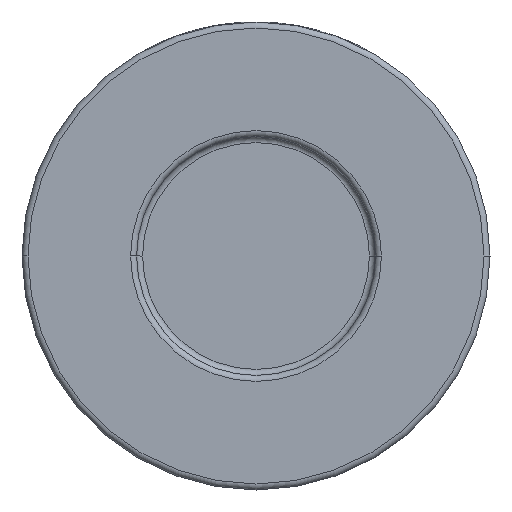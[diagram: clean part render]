
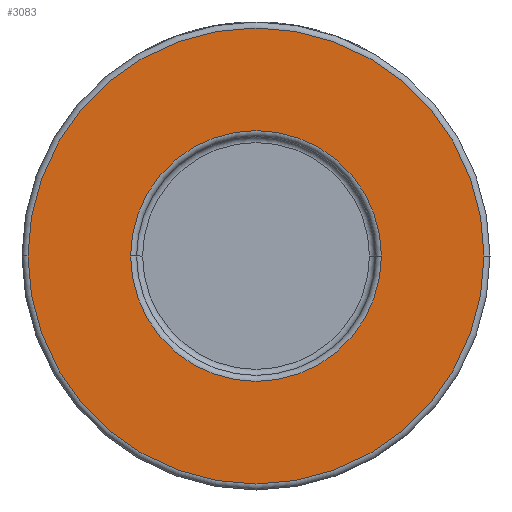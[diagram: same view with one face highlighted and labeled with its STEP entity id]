
A CAD part, front view. The second image highlights one B-rep face of the part: STEP entity #3083.
In plain terms, the highlighted planar face has unit normal (0, -1, 0).
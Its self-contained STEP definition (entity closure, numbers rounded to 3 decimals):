
#149 = CARTESIAN_POINT ( 'NONE',  ( 0., -26., 0. ) ) ;
#270 = DIRECTION ( 'NONE',  ( 0., -1., 0. ) ) ;
#294 = CARTESIAN_POINT ( 'NONE',  ( 39., -26., 0. ) ) ;
#370 = ORIENTED_EDGE ( 'NONE', *, *, #4394, .T. ) ;
#423 = DIRECTION ( 'NONE',  ( 0., -1., 0. ) ) ;
#425 = EDGE_LOOP ( 'NONE', ( #875, #2602 ) ) ;
#471 = DIRECTION ( 'NONE',  ( 1., 0., 0. ) ) ;
#713 = EDGE_CURVE ( 'NONE', #2029, #928, #2468, .T. ) ;
#725 = DIRECTION ( 'NONE',  ( 1., 0., 0. ) ) ;
#788 = CIRCLE ( 'NONE', #3146, 38. ) ;
#839 = DIRECTION ( 'NONE',  ( 0., 1., 0. ) ) ;
#875 = ORIENTED_EDGE ( 'NONE', *, *, #713, .T. ) ;
#928 = VERTEX_POINT ( 'NONE', #2637 ) ;
#944 = DIRECTION ( 'NONE',  ( 1., 0., 0. ) ) ;
#1090 = AXIS2_PLACEMENT_3D ( 'NONE', #1128, #839, #2615 ) ;
#1108 = DIRECTION ( 'NONE',  ( 0., 1., 0. ) ) ;
#1128 = CARTESIAN_POINT ( 'NONE',  ( 0., -26., 0. ) ) ;
#1516 = DIRECTION ( 'NONE',  ( 0., -1., 0. ) ) ;
#1530 = VERTEX_POINT ( 'NONE', #4451 ) ;
#1613 = CIRCLE ( 'NONE', #2190, 20.9 ) ;
#1959 = FACE_BOUND ( 'NONE', #3661, .T. ) ;
#2029 = VERTEX_POINT ( 'NONE', #2096 ) ;
#2071 = ORIENTED_EDGE ( 'NONE', *, *, #3267, .T. ) ;
#2096 = CARTESIAN_POINT ( 'NONE',  ( 38., -26., 0. ) ) ;
#2190 = AXIS2_PLACEMENT_3D ( 'NONE', #149, #1108, #3607 ) ;
#2391 = CARTESIAN_POINT ( 'NONE',  ( 20.9, -26., 0. ) ) ;
#2468 = CIRCLE ( 'NONE', #4158, 38. ) ;
#2602 = ORIENTED_EDGE ( 'NONE', *, *, #3298, .T. ) ;
#2615 = DIRECTION ( 'NONE',  ( 1., 0., 0. ) ) ;
#2637 = CARTESIAN_POINT ( 'NONE',  ( -38., -26., 0. ) ) ;
#3083 = ADVANCED_FACE ( 'NONE', ( #1959, #3769 ), #3423, .T. ) ;
#3143 = CARTESIAN_POINT ( 'NONE',  ( 0., -26., 0. ) ) ;
#3146 = AXIS2_PLACEMENT_3D ( 'NONE', #3606, #1516, #471 ) ;
#3267 = EDGE_CURVE ( 'NONE', #4536, #1530, #3869, .T. ) ;
#3298 = EDGE_CURVE ( 'NONE', #928, #2029, #788, .T. ) ;
#3423 = PLANE ( 'NONE',  #3881 ) ;
#3606 = CARTESIAN_POINT ( 'NONE',  ( 0., -26., 0. ) ) ;
#3607 = DIRECTION ( 'NONE',  ( 1., 0., 0. ) ) ;
#3661 = EDGE_LOOP ( 'NONE', ( #2071, #370 ) ) ;
#3769 = FACE_OUTER_BOUND ( 'NONE', #425, .T. ) ;
#3869 = CIRCLE ( 'NONE', #1090, 20.9 ) ;
#3881 = AXIS2_PLACEMENT_3D ( 'NONE', #294, #270, #944 ) ;
#4158 = AXIS2_PLACEMENT_3D ( 'NONE', #3143, #423, #725 ) ;
#4394 = EDGE_CURVE ( 'NONE', #1530, #4536, #1613, .T. ) ;
#4451 = CARTESIAN_POINT ( 'NONE',  ( -20.9, -26., 0. ) ) ;
#4536 = VERTEX_POINT ( 'NONE', #2391 ) ;
